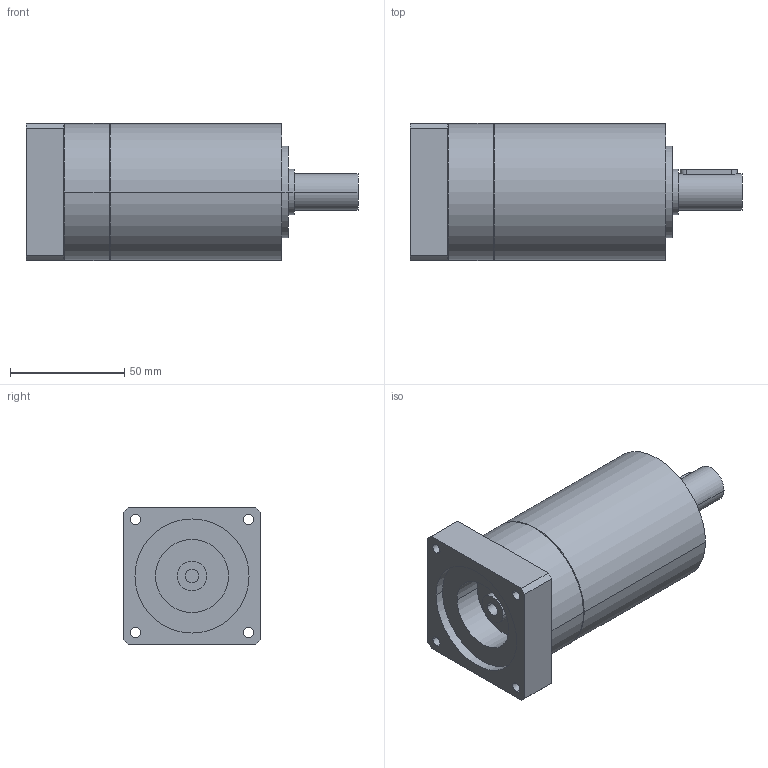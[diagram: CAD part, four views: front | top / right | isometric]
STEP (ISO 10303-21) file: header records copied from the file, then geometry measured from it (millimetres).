
FILE_DESCRIPTION(('CoCreate Modeling STEP Export'),'2;1');
FILE_NAME('GPR75_ig-9-12-16-20-24-30-36_16_B14_6_P17.stp','2014-08-25T16:04:42',(''),(''),'CoCreate Modeling STEP processor for AP214 (Solid Model)','CoCreate Modeling 16.00C 25-Feb-2009 (C) Parametric Technology GmbH','');
FILE_SCHEMA(('AUTOMOTIVE_DESIGN { 1 0 10303 214 1 1 1 1 }'));
Length unit declared in the file: millimetre
Products named in the file (2): GPR75_ig-9-12-16-20-24-30-36_16_B14_6_P17
Assembly tree (1 placements, depth 2):
  GPR75_ig-9-12-16-20-24-30-36_16_B14_6_P17
    GPR75_ig-9-12-16-20-24-30-36_16_B14_6_P17
Bounding box: 145.4 x 60 x 60 mm (x, y, z)
Volume: 319807.2 mm3; surface area: 35401 mm2
Topology: 1 solids, 1 shells, 70 faces, 189 edges, 133 vertices
Faces by surface type: cylinder 42, plane 22, cone 6
Entity records: 1944 total; most frequent: ORIENTED_EDGE 374, CARTESIAN_POINT 361, DIRECTION 262, EDGE_CURVE 187, VERTEX_POINT 133, AXIS2_PLACEMENT_3D 98, EDGE_LOOP 92, FACE_OUTER_BOUND 70
